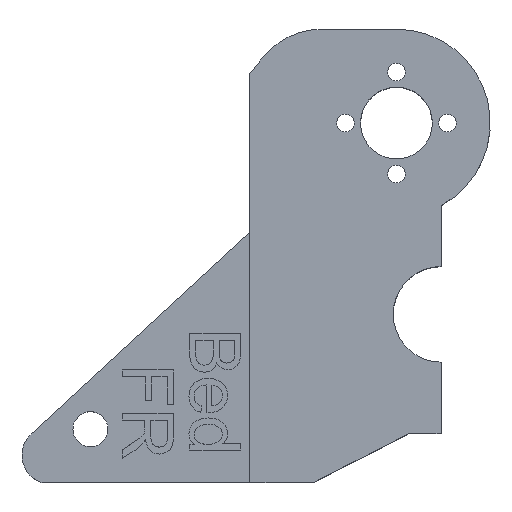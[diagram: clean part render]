
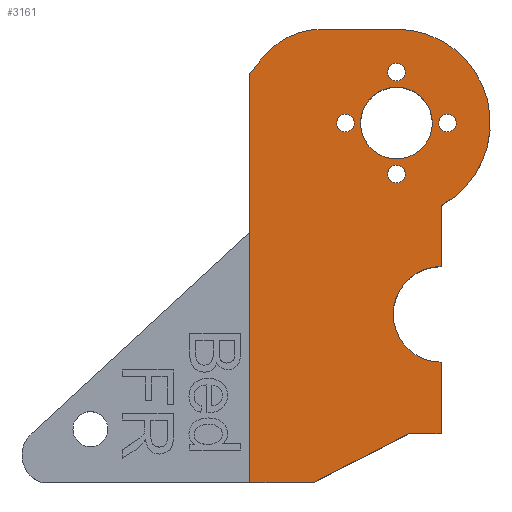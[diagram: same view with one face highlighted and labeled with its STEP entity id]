
A CAD part, top view. The second image highlights one B-rep face of the part: STEP entity #3161.
In plain terms, the highlighted planar face has unit normal (0, 0, 1) as drawn and (0, -1, 0) by its records, which use the part's own axes.
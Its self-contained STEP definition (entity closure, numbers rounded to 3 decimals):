
#278=FACE_BOUND('',#637,.T.);
#279=FACE_BOUND('',#638,.T.);
#280=FACE_BOUND('',#639,.T.);
#281=FACE_BOUND('',#640,.T.);
#282=FACE_BOUND('',#641,.T.);
#301=CIRCLE('',#3289,7.5);
#302=CIRCLE('',#3290,14.726);
#303=CIRCLE('',#3291,12.);
#304=CIRCLE('',#3292,5.625);
#305=CIRCLE('',#3293,1.4);
#306=CIRCLE('',#3294,1.4);
#307=CIRCLE('',#3295,1.4);
#308=CIRCLE('',#3296,1.4);
#443=FACE_OUTER_BOUND('',#636,.T.);
#636=EDGE_LOOP('',(#2775,#2776,#2777,#2778,#2779,#2780,#2781,#2782,#2783,
#2784,#2785,#2786,#2787,#2788,#2789));
#637=EDGE_LOOP('',(#2790));
#638=EDGE_LOOP('',(#2791));
#639=EDGE_LOOP('',(#2792));
#640=EDGE_LOOP('',(#2793));
#641=EDGE_LOOP('',(#2794));
#921=LINE('',#5958,#1207);
#924=LINE('',#5963,#1210);
#925=LINE('',#5966,#1211);
#926=LINE('',#5968,#1212);
#927=LINE('',#5970,#1213);
#928=LINE('',#5972,#1214);
#929=LINE('',#5974,#1215);
#930=LINE('',#5978,#1216);
#931=LINE('',#5980,#1217);
#932=LINE('',#5984,#1218);
#933=LINE('',#5988,#1219);
#934=LINE('',#5989,#1220);
#1207=VECTOR('',#3725,10.);
#1210=VECTOR('',#3730,10.);
#1211=VECTOR('',#3733,10.);
#1212=VECTOR('',#3734,10.);
#1213=VECTOR('',#3735,10.);
#1214=VECTOR('',#3736,10.);
#1215=VECTOR('',#3737,10.);
#1216=VECTOR('',#3740,10.);
#1217=VECTOR('',#3741,10.);
#1218=VECTOR('',#3744,10.);
#1219=VECTOR('',#3747,10.);
#1220=VECTOR('',#3748,10.);
#1539=VERTEX_POINT('',#5955);
#1540=VERTEX_POINT('',#5957);
#1541=VERTEX_POINT('',#5961);
#1542=VERTEX_POINT('',#5965);
#1543=VERTEX_POINT('',#5967);
#1544=VERTEX_POINT('',#5969);
#1545=VERTEX_POINT('',#5971);
#1546=VERTEX_POINT('',#5973);
#1547=VERTEX_POINT('',#5975);
#1548=VERTEX_POINT('',#5977);
#1549=VERTEX_POINT('',#5979);
#1550=VERTEX_POINT('',#5981);
#1551=VERTEX_POINT('',#5983);
#1552=VERTEX_POINT('',#5985);
#1553=VERTEX_POINT('',#5987);
#1554=VERTEX_POINT('',#5990);
#1555=VERTEX_POINT('',#5992);
#1556=VERTEX_POINT('',#5994);
#1557=VERTEX_POINT('',#5996);
#1558=VERTEX_POINT('',#5998);
#1965=EDGE_CURVE('',#1539,#1540,#921,.T.);
#1968=EDGE_CURVE('',#1541,#1539,#924,.T.);
#1969=EDGE_CURVE('',#1540,#1542,#925,.T.);
#1970=EDGE_CURVE('',#1543,#1541,#926,.T.);
#1971=EDGE_CURVE('',#1544,#1543,#927,.T.);
#1972=EDGE_CURVE('',#1545,#1544,#928,.T.);
#1973=EDGE_CURVE('',#1546,#1545,#929,.T.);
#1974=EDGE_CURVE('',#1547,#1546,#301,.T.);
#1975=EDGE_CURVE('',#1548,#1547,#930,.T.);
#1976=EDGE_CURVE('',#1549,#1548,#931,.T.);
#1977=EDGE_CURVE('',#1550,#1549,#302,.T.);
#1978=EDGE_CURVE('',#1551,#1550,#932,.T.);
#1979=EDGE_CURVE('',#1552,#1551,#303,.T.);
#1980=EDGE_CURVE('',#1553,#1552,#933,.T.);
#1981=EDGE_CURVE('',#1542,#1553,#934,.T.);
#1982=EDGE_CURVE('',#1554,#1554,#304,.T.);
#1983=EDGE_CURVE('',#1555,#1555,#305,.T.);
#1984=EDGE_CURVE('',#1556,#1556,#306,.T.);
#1985=EDGE_CURVE('',#1557,#1557,#307,.T.);
#1986=EDGE_CURVE('',#1558,#1558,#308,.T.);
#2775=ORIENTED_EDGE('',*,*,#1969,.F.);
#2776=ORIENTED_EDGE('',*,*,#1965,.F.);
#2777=ORIENTED_EDGE('',*,*,#1968,.F.);
#2778=ORIENTED_EDGE('',*,*,#1970,.F.);
#2779=ORIENTED_EDGE('',*,*,#1971,.F.);
#2780=ORIENTED_EDGE('',*,*,#1972,.F.);
#2781=ORIENTED_EDGE('',*,*,#1973,.F.);
#2782=ORIENTED_EDGE('',*,*,#1974,.F.);
#2783=ORIENTED_EDGE('',*,*,#1975,.F.);
#2784=ORIENTED_EDGE('',*,*,#1976,.F.);
#2785=ORIENTED_EDGE('',*,*,#1977,.F.);
#2786=ORIENTED_EDGE('',*,*,#1978,.F.);
#2787=ORIENTED_EDGE('',*,*,#1979,.F.);
#2788=ORIENTED_EDGE('',*,*,#1980,.F.);
#2789=ORIENTED_EDGE('',*,*,#1981,.F.);
#2790=ORIENTED_EDGE('',*,*,#1982,.F.);
#2791=ORIENTED_EDGE('',*,*,#1983,.F.);
#2792=ORIENTED_EDGE('',*,*,#1984,.F.);
#2793=ORIENTED_EDGE('',*,*,#1985,.F.);
#2794=ORIENTED_EDGE('',*,*,#1986,.F.);
#3005=PLANE('',#3288);
#3161=ADVANCED_FACE('',(#443,#278,#279,#280,#281,#282),#3005,.F.);
#3288=AXIS2_PLACEMENT_3D('',#5964,#3731,#3732);
#3289=AXIS2_PLACEMENT_3D('',#5976,#3738,#3739);
#3290=AXIS2_PLACEMENT_3D('',#5982,#3742,#3743);
#3291=AXIS2_PLACEMENT_3D('',#5986,#3745,#3746);
#3292=AXIS2_PLACEMENT_3D('',#5991,#3749,#3750);
#3293=AXIS2_PLACEMENT_3D('',#5993,#3751,#3752);
#3294=AXIS2_PLACEMENT_3D('',#5995,#3753,#3754);
#3295=AXIS2_PLACEMENT_3D('',#5997,#3755,#3756);
#3296=AXIS2_PLACEMENT_3D('',#5999,#3757,#3758);
#3725=DIRECTION('',(-0.002,0.,1.));
#3730=DIRECTION('',(0.,0.,1.));
#3731=DIRECTION('center_axis',(0.,1.,0.));
#3732=DIRECTION('ref_axis',(-1.,0.,0.));
#3733=DIRECTION('',(-1.,0.,-0.002));
#3734=DIRECTION('',(-1.,0.,0.));
#3735=DIRECTION('',(-0.889,0.,-0.457));
#3736=DIRECTION('',(-1.,0.,0.));
#3737=DIRECTION('',(0.,0.,-1.));
#3738=DIRECTION('center_axis',(0.,-1.,0.));
#3739=DIRECTION('ref_axis',(-1.,0.,0.));
#3740=DIRECTION('',(0.,0.,-1.));
#3741=DIRECTION('',(-1.,0.,0.));
#3742=DIRECTION('center_axis',(0.,1.,0.));
#3743=DIRECTION('ref_axis',(-1.,0.,0.));
#3744=DIRECTION('',(1.,0.,0.));
#3745=DIRECTION('center_axis',(0.,1.,0.));
#3746=DIRECTION('ref_axis',(-0.433,0.,0.901));
#3747=DIRECTION('',(0.625,0.,0.781));
#3748=DIRECTION('',(0.002,0.,1.));
#3749=DIRECTION('center_axis',(0.,-1.,0.));
#3750=DIRECTION('ref_axis',(-1.,0.,0.));
#3751=DIRECTION('center_axis',(0.,-1.,0.));
#3752=DIRECTION('ref_axis',(-1.,0.,0.));
#3753=DIRECTION('center_axis',(0.,-1.,0.));
#3754=DIRECTION('ref_axis',(-1.,0.,0.));
#3755=DIRECTION('center_axis',(0.,-1.,0.));
#3756=DIRECTION('ref_axis',(-1.,0.,0.));
#3757=DIRECTION('center_axis',(0.,-1.,0.));
#3758=DIRECTION('ref_axis',(-1.,0.,0.));
#5955=CARTESIAN_POINT('',(-50.,174.,-50.004));
#5957=CARTESIAN_POINT('',(-50.023,174.,-40.004));
#5958=CARTESIAN_POINT('',(-49.868,174.,-107.948));
#5961=CARTESIAN_POINT('',(-50.,174.,-83.399));
#5963=CARTESIAN_POINT('',(-50.,174.,-108.07));
#5964=CARTESIAN_POINT('Origin',(-157.536,174.,-166.137));
#5965=CARTESIAN_POINT('',(-50.05,174.,-40.004));
#5966=CARTESIAN_POINT('',(-133.923,174.,-40.194));
#5967=CARTESIAN_POINT('',(-40.,174.,-83.399));
#5968=CARTESIAN_POINT('',(-98.768,174.,-83.399));
#5969=CARTESIAN_POINT('',(-25.104,174.,-75.737));
#5970=CARTESIAN_POINT('',(-95.852,174.,-112.127));
#5971=CARTESIAN_POINT('',(-19.997,174.,-75.737));
#5972=CARTESIAN_POINT('',(-86.268,174.,-75.737));
#5973=CARTESIAN_POINT('',(-19.997,174.,-64.5));
#5974=CARTESIAN_POINT('',(-19.997,174.,-103.037));
#5975=CARTESIAN_POINT('',(-19.997,174.,-49.5));
#5976=CARTESIAN_POINT('Origin',(-20.,174.,-57.));
#5977=CARTESIAN_POINT('',(-19.997,174.,-39.937));
#5978=CARTESIAN_POINT('',(-19.997,174.,-103.037));
#5979=CARTESIAN_POINT('',(-19.964,174.,-39.937));
#5980=CARTESIAN_POINT('',(-88.717,174.,-39.937));
#5981=CARTESIAN_POINT('',(-27.,174.,-12.274));
#5982=CARTESIAN_POINT('Origin',(-27.,174.,-27.));
#5983=CARTESIAN_POINT('',(-38.653,174.,-12.274));
#5984=CARTESIAN_POINT('',(-100.978,174.,-12.274));
#5985=CARTESIAN_POINT('',(-48.022,174.,-16.775));
#5986=CARTESIAN_POINT('Origin',(-38.653,174.,-24.274));
#5987=CARTESIAN_POINT('',(-50.003,174.,-19.25));
#5988=CARTESIAN_POINT('',(-116.77,174.,-102.666));
#5989=CARTESIAN_POINT('',(-50.199,174.,-105.259));
#5990=CARTESIAN_POINT('',(-21.375,174.,-27.));
#5991=CARTESIAN_POINT('Origin',(-27.,174.,-27.));
#5992=CARTESIAN_POINT('',(-25.6,174.,-35.));
#5993=CARTESIAN_POINT('Origin',(-27.,174.,-35.));
#5994=CARTESIAN_POINT('',(-33.6,174.,-27.));
#5995=CARTESIAN_POINT('Origin',(-35.,174.,-27.));
#5996=CARTESIAN_POINT('',(-17.6,174.,-27.));
#5997=CARTESIAN_POINT('Origin',(-19.,174.,-27.));
#5998=CARTESIAN_POINT('',(-25.6,174.,-19.));
#5999=CARTESIAN_POINT('Origin',(-27.,174.,-19.));
